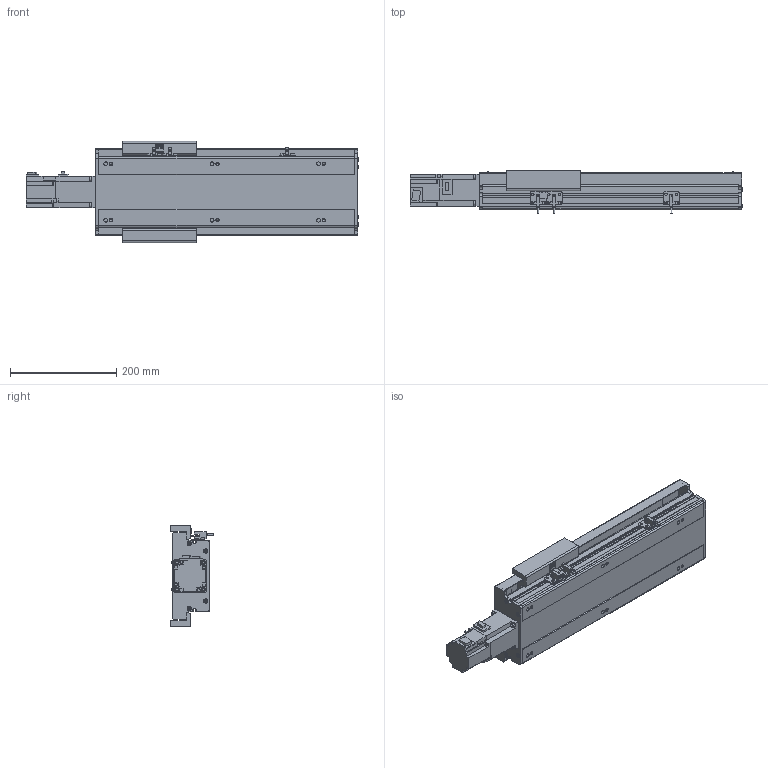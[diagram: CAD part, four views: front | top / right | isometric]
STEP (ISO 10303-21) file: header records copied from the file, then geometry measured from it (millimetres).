
FILE_DESCRIPTION(/* description */ ('STEP AP214'),/* implementation_level */ '2;1');
FILE_NAME(/* name */ 'PSM140-L10-S250-BC-T40-C1-N(0)',/* time_stamp */ '2022-06-13T03:18:36+02:00',/* author */ ('License CC BY-ND 4.0'),/* organization */ ('CADENAS'),/* preprocessor_version */ 'ST-DEVELOPER v18.102',/* originating_system */ 'PARTsolutions',/* authorisation */ ' ');
FILE_SCHEMA (('AUTOMOTIVE_DESIGN {1 0 10303 214 3 1 1}'));
Length unit declared in the file: millimetre
Products named in the file (7): PSM140-L10-S250-BC-T40-C1-N(0); PSM-Sensor; PSM140-S250-492.5; T40-p1; PSM140_body3; PSM140-S250_body1; PSM140-L10-S250-BC-T40-C1-N(0)_dummy
Assembly tree (10 placements, depth 2):
  PSM140-L10-S250-BC-T40-C1-N(0)
    PSM-Sensor  x3
    PSM140-S250-492.5  x3
    T40-p1
    PSM140_body3
    PSM140-S250_body1
    PSM140-L10-S250-BC-T40-C1-N(0)_dummy
Bounding box: 623.7 x 81.3 x 190 mm (x, y, z)
Volume: 2819513.1 mm3; surface area: 591310 mm2
Topology: 9 solids, 9 shells, 912 faces, 2403 edges, 1562 vertices
Faces by surface type: plane 616, cylinder 234, cone 48, torus 14
Full cylindrical faces by diameter (mm): 2.8 x3, 4.5 x12, 4.6 x3, 4.917 x14, 5.5 x7, 5.7 x6, 6 x2, 7 x14, 8 x8, 8.5 x4, 10.5 x6, 14 x1, 50 x1
Entity records: 23116 total; most frequent: CARTESIAN_POINT 4065, DIRECTION 3923, ORIENTED_EDGE 3710, EDGE_CURVE 1855, LINE 1337, VECTOR 1337, AXIS2_PLACEMENT_3D 1293, VERTEX_POINT 1288
